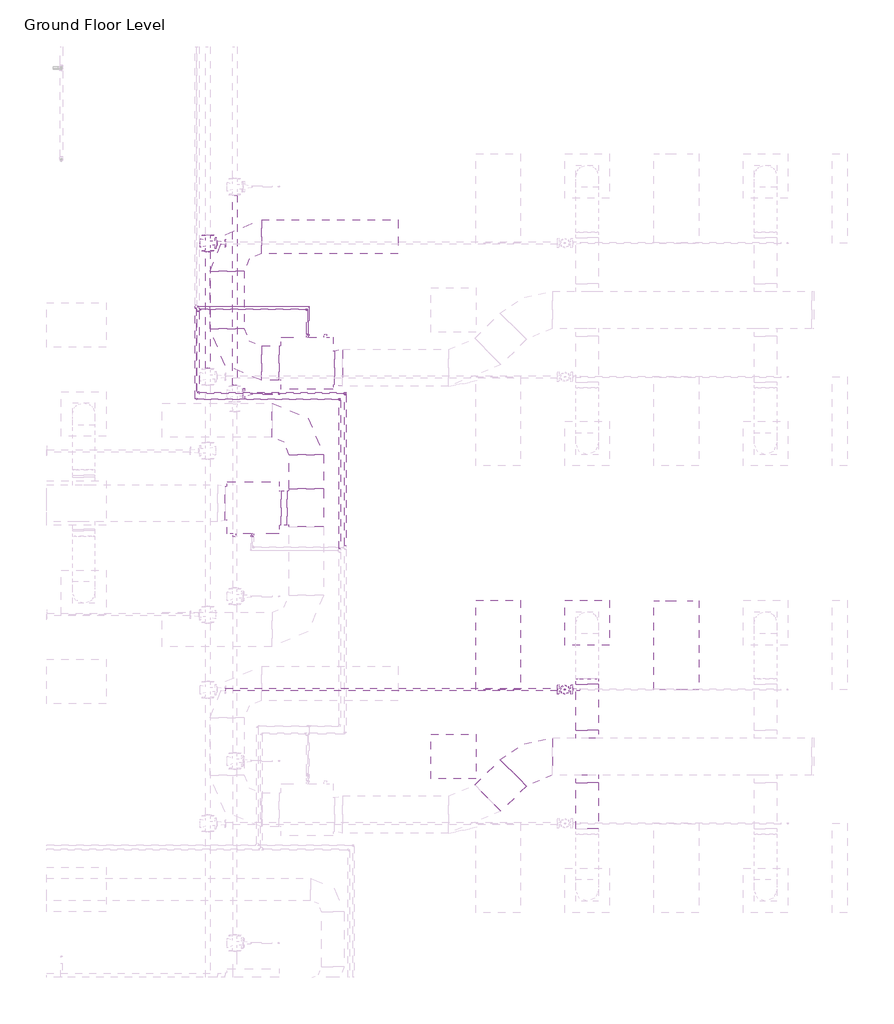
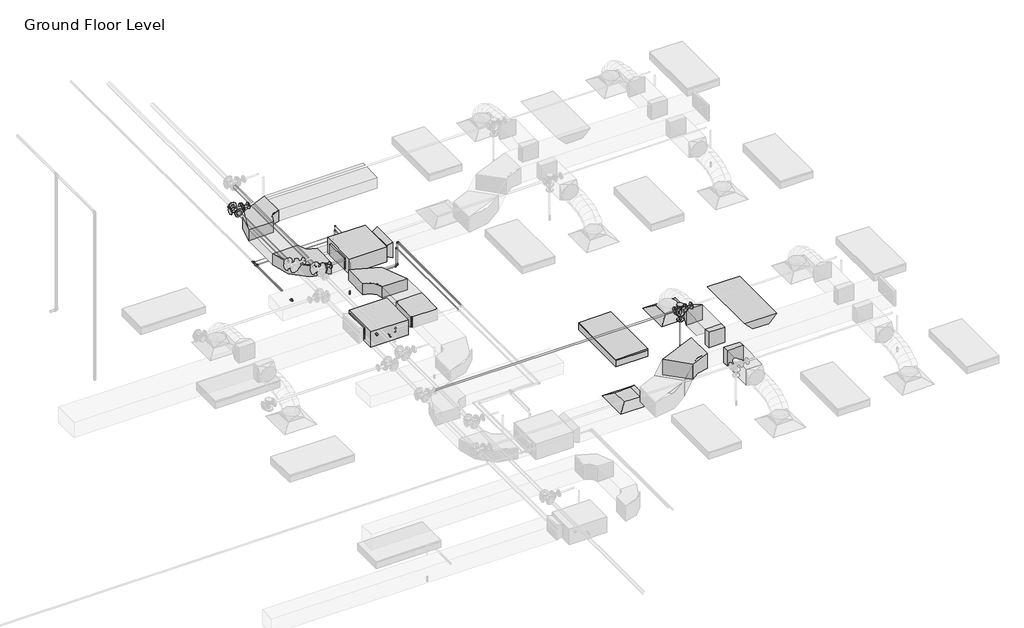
# One storey, part 62 of 73: 20 pipe fittings, 20 pipe segments, 9 duct fittings, 8 duct segments, 2 air terminals, 2 fire suppression terminals, 2 light fixtures, 2 proxies.
"""IFC4 building model written with IfcOpenShell, lengths in millimetres."""

from ifc_helpers import new_model, si_unit, point, frame, frame_2d, origin, place, context, project, spatial, polyline, circle_curve, trimmed, segment, composite_curve, outline, extrude, transform, mapped, element, save
from components import m_return_diffuser_600_x_600_face_300_x_300_connection_ff221211, fcu_daikin_iu_bad131e0, m_rectangular_elbow_radius_1_w_54c96895, m_rectangular_elbow_radius_1_5_w_acc56c25, m_rectangular_takeoff_standard_cb0ccb98, m_rectangular_takeoff_standard_2be5eba1, m_rectangular_tee_standard_fa4de0e8, m_rectangular_transition_angle_45_degree_2b595dfe, m_rectangular_to_round_transition_angle_45_degree_641efff0, m_sprinkler_dry_pendent_hosted_15_mm_dry_pendent_9bda8e11, m_sprinkler_pendent_15_mm_pendent_06fcbd8e, m_emergency_recessed_lighting_fixture_600x1200_277_5b10b25d, m_troffer_light_parabolic_rectangular1_0600x1200mm_4_lamp_86473d4a, m_elbow_generic_standard_a088f956, m_elbow_generic_standard_2a704253, m_elbow_generic_standard_73005802, m_elbow_generic_standard_bb5ffebe, m_reducer_flanged_cs_class_150_standard_ccf252ad, m_reducer_flanged_cs_class_150_standard_9dfe9ec5, m_reducer_flanged_cs_class_150_standard_a7631c35, m_tee_generic_standard_cdc1cff5, m_tee_generic_standard_bbfc025c, m_tee_round_base_flanged_cs_class_150_standard_dd767e04, m_tee_round_base_flanged_cs_class_150_standard_7e5987a1, m_transition_generic_standard_e9aec4dd, m_transition_generic_standard_c2658a33

model = new_model("IFC4")

# Units and contexts
model_context = context("Model", 3, world=origin())
ifc_project = project(units=[si_unit("LENGTHUNIT", "METRE", prefix="MILLI")], contexts=[model_context])

# Site, building, storey
site = spatial("IfcSite", under=ifc_project)
building = spatial("IfcBuilding", under=site)
storey = spatial("IfcBuildingStorey", under=building, Name="Ground Floor Level", Elevation=900.0)

# Air terminals
placement = place(None, origin())
m_return_diffuser_600_x_600_face_300_x_300_connection_shape = m_return_diffuser_600_x_600_face_300_x_300_connection_ff221211(model_context)
element("IfcAirTerminal", 1, ObjectType="M_Return Diffuser : 600 x 600 Face 300 x 300 Connection", at=placement, inside=storey, context=model_context, shape_type="MappedRepresentation", body=[
    mapped(m_return_diffuser_600_x_600_face_300_x_300_connection_shape, transform((8942.7672395, 725.2153534, 3650.0), x_axis=(1.0, 0.0, 0.0), y_axis=(0.0, 1.0, 0.0), z_axis=(0.0, 0.0, 1.0))),
])
element("IfcAirTerminal", 2, ObjectType="M_Supply Diffuser : 600 x 600 Face 300 x 300 Connection", at=placement, inside=storey, context=model_context, shape_type="MappedRepresentation", body=[
    mapped(m_return_diffuser_600_x_600_face_300_x_300_connection_shape, transform((10742.7672395, 2525.2153534, 3650.0), x_axis=(1.0, 0.0, 0.0), y_axis=(0.0, 1.0, 0.0), z_axis=(0.0, 0.0, 1.0))),
])

# Proxies
fcu_daikin_iu_shape = fcu_daikin_iu_bad131e0(model_context)
element("IfcBuildingElementProxy", 3, Name="FCU-DAIKIN IU : 4.5kW, 230V/50Hz/1Ph", ObjectType="FCU-DAIKIN IU : 4.5kW, 230V/50Hz/1Ph", at=placement, inside=storey, context=model_context, shape_type="MappedRepresentation", body=[
    mapped(fcu_daikin_iu_shape, transform((6968.8139492, 6019.6779527, 3934.0932729), x_axis=(0.0, 1.0, 0.0), y_axis=(-1.0, 0.0, 0.0), z_axis=(0.0, 0.0, 1.0))),
])
element("IfcBuildingElementProxy", 4, Name="FCU-DAIKIN IU : 4.5kW, 230V/50Hz/1Ph", ObjectType="FCU-DAIKIN IU : 4.5kW, 230V/50Hz/1Ph", at=placement, inside=storey, context=model_context, shape_type="MappedRepresentation", body=[
    mapped(fcu_daikin_iu_shape, transform((6243.4139492, 4071.5199167, 3934.0875), x_axis=(0.0, -1.0, 0.0), y_axis=(1.0, 0.0, 0.0), z_axis=(0.0, 0.0, 1.0))),
])

# Duct fittings
m_rectangular_elbow_radius_1_w_shape = m_rectangular_elbow_radius_1_w_54c96895(model_context)
element("IfcDuctFitting", 5, ObjectType="M_Rectangular Elbow - Radius : 1 W", at=placement, inside=storey, context=model_context, shape_type="MappedRepresentation", body=[
    mapped(m_rectangular_elbow_radius_1_w_shape, transform((5893.4139492, 6019.6779527, 4075.2932729), x_axis=(0.0, -1.0, 0.0), y_axis=(1.0, 0.0, 0.0), z_axis=(0.0, 0.0, 1.0))),
])
element("IfcDuctFitting", 6, ObjectType="M_Rectangular Elbow - Radius : 1 W", at=placement, inside=storey, context=model_context, shape_type="MappedRepresentation", body=[
    mapped(m_rectangular_elbow_radius_1_w_shape, transform((5893.4139492, 7719.6783949, 4075.2932729), x_axis=(-1.0, 0.0, 0.0), y_axis=(0.0, -1.0, 0.0), z_axis=(0.0, 0.0, 1.0))),
])
element("IfcDuctFitting", 7, ObjectType="M_Rectangular Elbow - Radius : 1 W", at=placement, inside=storey, context=model_context, shape_type="MappedRepresentation", body=[
    mapped(m_rectangular_elbow_radius_1_w_shape, transform((6958.8139492, 5251.5199167, 4075.2875), x_axis=(0.0, 1.0, 0.0), y_axis=(-1.0, 0.0, 0.0), z_axis=(0.0, 0.0, 1.0))),
])
m_rectangular_elbow_radius_1_5_w_shape = m_rectangular_elbow_radius_1_5_w_acc56c25(model_context)
element("IfcDuctFitting", 8, ObjectType="M_Rectangular Elbow - Radius : 1.5 W", at=placement, inside=storey, context=model_context, shape_type="MappedRepresentation", body=[
    mapped(m_rectangular_elbow_radius_1_5_w_shape, transform((9966.7301365, 725.2153534, 4100.0), x_axis=(-1.0, 0.0, 0.0), y_axis=(0.0, -0.9999999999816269, 6.061864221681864e-06), z_axis=(0.0, 6.061864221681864e-06, 0.9999999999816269))),
])
m_rectangular_takeoff_standard_shape = m_rectangular_takeoff_standard_cb0ccb98(model_context)
element("IfcDuctFitting", 9, ObjectType="M_Rectangular Takeoff : Standard", at=placement, inside=storey, context=model_context, shape_type="MappedRepresentation", body=[
    mapped(m_rectangular_takeoff_standard_shape, transform((10742.7672395, 975.2153534, 4100.0), x_axis=(0.0, 1.0, 0.0), y_axis=(1.0, 0.0, 0.0), z_axis=(0.0, 0.0, -1.0))),
])
m_rectangular_takeoff_standard_2_shape = m_rectangular_takeoff_standard_2be5eba1(model_context)
element("IfcDuctFitting", 10, ObjectType="M_Rectangular Takeoff : Standard", at=placement, inside=storey, context=model_context, shape_type="MappedRepresentation", body=[
    mapped(m_rectangular_takeoff_standard_2_shape, transform((10742.7672395, 475.2153534, 4100.0), x_axis=(0.0, -1.0, 0.0), y_axis=(-1.0, 0.0, 0.0), z_axis=(0.0, 0.0, -1.0))),
])
m_rectangular_tee_standard_shape = m_rectangular_tee_standard_fa4de0e8(model_context)
element("IfcDuctFitting", 11, ObjectType="M_Rectangular Tee : Standard", at=placement, inside=storey, context=model_context, shape_type="MappedRepresentation", body=[
    mapped(m_rectangular_tee_standard_shape, transform((6958.8139492, 4071.5199167, 4075.2875), x_axis=(0.0, -1.0, 0.0), y_axis=(1.0, 0.0, 0.0), z_axis=(0.0, 0.0, 1.0))),
])
m_rectangular_transition_angle_45_degree_shape = m_rectangular_transition_angle_45_degree_2b595dfe(model_context)
element("IfcDuctFitting", 12, ObjectType="M_Rectangular Transition - Angle : 45 Degree", at=placement, inside=storey, context=model_context, shape_type="MappedRepresentation", body=[
    mapped(m_rectangular_transition_angle_45_degree_shape, transform((7344.2139492, 5956.1779527, 4100.0057729), x_axis=(1.0, 0.0, 0.0), y_axis=(0.0, 1.0, 0.0), z_axis=(0.0, 0.0, 1.0))),
])
m_rectangular_to_round_transition_angle_45_degree_shape = m_rectangular_to_round_transition_angle_45_degree_641efff0(model_context)
element("IfcDuctFitting", 13, ObjectType="M_Rectangular to Round Transition - Angle : 45 Degree", at=placement, inside=storey, context=model_context, shape_type="MappedRepresentation", body=[
    mapped(m_rectangular_to_round_transition_angle_45_degree_shape, transform((10742.7672395, 1697.8794221, 4100.0), x_axis=(0.0, 1.0, 0.0), y_axis=(-1.0, 0.0, 0.0), z_axis=(0.0, 0.0, 1.0))),
])

# Duct segments
element("IfcDuctSegment", 14, ObjectType="Radius Elbows / Taps", at=placement, inside=storey, context=model_context, shape_type="SweptSolid", body=[
    extrude(outline(polyline([(6593.4139492, 6250.6154527), (6593.4139492, 5788.7404527), (6355.2889492, 5788.7404527), (6355.2889492, 6250.6154527), (6593.4139492, 6250.6154527)])), frame((0.0, 0.0, 3968.1432729), z_axis=(0.0, 0.0, 1.0), x_axis=(1.0, 0.0, 0.0)), (0.0, 0.0, 1.0), 214.3),
])
element("IfcDuctSegment", 15, ObjectType="Radius Elbows / Taps", at=placement, inside=storey, context=model_context, shape_type="SweptSolid", body=[
    extrude(outline(polyline([(6124.3514492, 6481.5529527), (5662.4764492, 6481.5529527), (5662.4764492, 7257.8033949), (6124.3514492, 7257.8033949), (6124.3514492, 6481.5529527)])), frame((0.0, 0.0, 3968.1432729), z_axis=(0.0, 0.0, 1.0), x_axis=(1.0, 0.0, 0.0)), (0.0, 0.0, 1.0), 214.3),
])
element("IfcDuctSegment", 16, ObjectType="Radius Elbows / Taps", at=placement, inside=storey, context=model_context, shape_type="SweptSolid", body=[
    extrude(outline(polyline([(6355.2889492, 7488.7408949), (6355.2889492, 7950.6158949), (8193.4139492, 7950.6158949), (8193.4139492, 7488.7408949), (6355.2889492, 7488.7408949)])), frame((0.0, 0.0, 3968.1432729), z_axis=(0.0, 0.0, 1.0), x_axis=(1.0, 0.0, 0.0)), (0.0, 0.0, 1.0), 214.3),
])
element("IfcDuctSegment", 17, ObjectType="Radius Elbows / Taps", at=placement, inside=storey, context=model_context, shape_type="SweptSolid", body=[
    extrude(outline(polyline([(9584.1393452, -10.9288285), (9230.5859546, 342.6245621), (9570.2835271, 682.3221346), (9923.8369177, 328.768744), (9584.1393452, -10.9288285)])), frame((0.0, 0.0, 3950.0033908), z_axis=(0.0, 0.0, 1.0), x_axis=(1.0, 0.0, 0.0)), (0.0, 0.0, 1.0), 300.0),
])
element("IfcDuctSegment", 18, ObjectType="Radius Elbows / Taps", at=placement, inside=storey, context=model_context, shape_type="SweptSolid", body=[
    extrude(outline(polyline([(6618.8139492, 3840.5824167), (6618.8139492, 4302.4574167), (6702.8764492, 4302.4574167), (6702.8764492, 3840.5824167), (6618.8139492, 3840.5824167)])), frame((0.0, 0.0, 3968.1375), z_axis=(0.0, 0.0, 1.0), x_axis=(1.0, 0.0, 0.0)), (0.0, 0.0, 1.0), 214.3),
])
element("IfcDuctSegment", 19, ObjectType="Radius Elbows / Taps", at=placement, inside=storey, context=model_context, shape_type="SweptSolid", body=[
    extrude(outline(polyline([(7189.7514492, 4327.4574167), (6727.8764492, 4327.4574167), (6727.8764492, 4789.6449167), (7189.7514492, 4789.6449167), (7189.7514492, 4327.4574167)])), frame((0.0, 0.0, 3968.1375), z_axis=(0.0, 0.0, 1.0), x_axis=(1.0, 0.0, 0.0)), (0.0, 0.0, 1.0), 214.3),
])
element("IfcDuctSegment", 20, ObjectType="Radius Elbows / Taps", at=placement, inside=storey, context=model_context, shape_type="SweptSolid", body=[
    extrude(outline(polyline([(10892.7672395, 1076.8153534), (10592.7672395, 1076.8153534), (10592.7672395, 1697.8794221), (10892.7672395, 1697.8794221), (10892.7672395, 1076.8153534)])), frame((0.0, 0.0, 3950.0), z_axis=(0.0, 0.0, 1.0), x_axis=(1.0, 0.0, 0.0)), (0.0, 0.0, 1.0), 300.0),
])
element("IfcDuctSegment", 21, ObjectType="Radius Elbows / Taps", at=placement, inside=storey, context=model_context, shape_type="SweptSolid", body=[
    extrude(outline(polyline([(10592.7672395, 373.6153534), (10892.7672395, 373.6153534), (10892.7672395, -247.4487153), (10592.7672395, -247.4487153), (10592.7672395, 373.6153534)])), frame((0.0, 0.0, 3950.0), z_axis=(0.0, 0.0, 1.0), x_axis=(1.0, 0.0, 0.0)), (0.0, 0.0, 1.0), 300.0),
])

# Fire suppression terminals
m_sprinkler_dry_pendent_hosted_15_mm_dry_pendent_shape = m_sprinkler_dry_pendent_hosted_15_mm_dry_pendent_9bda8e11(model_context)
element("IfcFireSuppressionTerminal", 22, ObjectType="M_Sprinkler - Dry - Pendent - Hosted : 15 mm Dry Pendent", at=placement, inside=storey, context=model_context, shape_type="MappedRepresentation", body=[
    mapped(m_sprinkler_dry_pendent_hosted_15_mm_dry_pendent_shape, transform((10442.7672395, 1625.2153534, 3650.0), x_axis=(1.0, 0.0, 0.0), y_axis=(0.0, -1.0, 0.0), z_axis=(0.0, 0.0, -1.0))),
])
m_sprinkler_pendent_15_mm_pendent_shape = m_sprinkler_pendent_15_mm_pendent_06fcbd8e(model_context)
element("IfcFireSuppressionTerminal", 23, ObjectType="M_Sprinkler - Pendent : 15 mm Pendent", at=placement, inside=storey, context=model_context, shape_type="MappedRepresentation", body=[
    mapped(m_sprinkler_pendent_15_mm_pendent_shape, transform((6592.5481019, 5605.2153637, 3650.0), x_axis=(1.0, 0.0, 0.0), y_axis=(0.0, 1.0, 0.0), z_axis=(0.0, 0.0, 1.0))),
])

# Light fixtures
m_emergency_recessed_lighting_fixture_600x1200_277_shape = m_emergency_recessed_lighting_fixture_600x1200_277_5b10b25d(model_context)
element("IfcLightFixture", 24, ObjectType="M_Emergency Recessed Lighting Fixture : 600x1200 - 277", at=placement, inside=storey, context=model_context, shape_type="MappedRepresentation", body=[
    mapped(m_emergency_recessed_lighting_fixture_600x1200_277_shape, transform((11642.7672395, 1625.2153534, 3650.0), x_axis=(0.0, 1.0, 0.0), y_axis=(-1.0, 0.0, 0.0), z_axis=(0.0, 0.0, 1.0))),
])
m_troffer_light_parabolic_rectangular1_0600x1200mm_4_lamp_shape = m_troffer_light_parabolic_rectangular1_0600x1200mm_4_lamp_86473d4a(model_context)
element("IfcLightFixture", 25, ObjectType="M_Troffer Light - Parabolic Rectangular1 : 0600x1200mm(4 Lamp) - 277V 2", at=placement, inside=storey, context=model_context, shape_type="MappedRepresentation", body=[
    mapped(m_troffer_light_parabolic_rectangular1_0600x1200mm_4_lamp_shape, transform((9483.3013074, 2243.918855, 3650.0), x_axis=(0.0, 1.0, 0.0), y_axis=(-1.0, 0.0, 0.0), z_axis=(0.0, 0.0, 1.0))),
])

# Pipe fittings
m_elbow_generic_standard_shape = m_elbow_generic_standard_a088f956(model_context)
element("IfcPipeFitting", 26, ObjectType="M_Elbow - Generic : Standard", at=placement, inside=storey, context=model_context, shape_type="MappedRepresentation", body=[
    mapped(m_elbow_generic_standard_shape, transform((6968.8139492, 6741.4098545, 4034.0932729), x_axis=(0.0, 1.0, 0.0), y_axis=(0.0, 0.0, -1.0), z_axis=(-1.0, 0.0, 0.0))),
])
element("IfcPipeFitting", 27, ObjectType="M_Elbow - Generic : Standard", at=placement, inside=storey, context=model_context, shape_type="MappedRepresentation", body=[
    mapped(m_elbow_generic_standard_shape, transform((6968.8139492, 6741.4098545, 3851.8370709), x_axis=(0.0, 0.0, -1.0), y_axis=(-1.0, 0.0, 0.0), z_axis=(0.0, 1.0, 0.0))),
])
m_elbow_generic_standard_2_shape = m_elbow_generic_standard_2a704253(model_context)
element("IfcPipeFitting", 28, ObjectType="M_Elbow - Generic : Standard", at=placement, inside=storey, context=model_context, shape_type="MappedRepresentation", body=[
    mapped(m_elbow_generic_standard_2_shape, transform((6993.8139492, 6781.5253374, 4084.8932729), x_axis=(0.0, 1.0, 0.0), y_axis=(0.0, 0.0, -1.0), z_axis=(-1.0, 0.0, 0.0))),
])
element("IfcPipeFitting", 29, ObjectType="M_Elbow - Generic : Standard", at=placement, inside=storey, context=model_context, shape_type="MappedRepresentation", body=[
    mapped(m_elbow_generic_standard_2_shape, transform((6993.8139492, 6781.5253374, 3894.9), x_axis=(0.0, 0.0, -1.0), y_axis=(-1.0, 0.0, 0.0), z_axis=(0.0, 1.0, 0.0))),
])
m_elbow_generic_standard_3_shape = m_elbow_generic_standard_73005802(model_context)
element("IfcPipeFitting", 30, ObjectType="M_Elbow - Generic : Standard", at=placement, inside=storey, context=model_context, shape_type="MappedRepresentation", body=[
    mapped(m_elbow_generic_standard_3_shape, transform((7485.0672395, 5616.0098545, 4300.0), x_axis=(0.0, 1.0, 0.0), y_axis=(0.0, 0.0, -1.0), z_axis=(-1.0, 0.0, 0.0))),
])
element("IfcPipeFitting", 31, ObjectType="M_Elbow - Generic : Standard", at=placement, inside=storey, context=model_context, shape_type="MappedRepresentation", body=[
    mapped(m_elbow_generic_standard_3_shape, transform((7485.0672395, 5616.0098545, 3851.8370709), x_axis=(0.0, 0.0, -1.0), y_axis=(-1.0, 0.0, 0.0), z_axis=(0.0, 1.0, 0.0))),
])
element("IfcPipeFitting", 32, ObjectType="M_Elbow - Generic : Standard", at=placement, inside=storey, context=model_context, shape_type="MappedRepresentation", body=[
    mapped(m_elbow_generic_standard_3_shape, transform((5505.0672395, 5616.0098545, 3851.8370709), x_axis=(0.0, -1.0, 0.0), y_axis=(1.0, 0.0, 0.0), z_axis=(0.0, 0.0, 1.0))),
])
m_elbow_generic_standard_4_shape = m_elbow_generic_standard_bb5ffebe(model_context)
element("IfcPipeFitting", 33, ObjectType="M_Elbow - Generic : Standard", at=placement, inside=storey, context=model_context, shape_type="MappedRepresentation", body=[
    mapped(m_elbow_generic_standard_4_shape, transform((7412.2057053, 5534.0185138, 4265.0), x_axis=(0.0, 1.0, 0.0), y_axis=(0.0, 0.0, -1.0), z_axis=(-1.0, 0.0, 0.0))),
])
element("IfcPipeFitting", 34, ObjectType="M_Elbow - Generic : Standard", at=placement, inside=storey, context=model_context, shape_type="MappedRepresentation", body=[
    mapped(m_elbow_generic_standard_4_shape, transform((7412.2057053, 5534.0185138, 3894.9), x_axis=(0.0, 0.0, -1.0), y_axis=(-1.0, 0.0, 0.0), z_axis=(0.0, 1.0, 0.0))),
])
element("IfcPipeFitting", 35, ObjectType="M_Elbow - Generic : Standard", at=placement, inside=storey, context=model_context, shape_type="MappedRepresentation", body=[
    mapped(m_elbow_generic_standard_4_shape, transform((5472.2057053, 5534.0185138, 3894.9), x_axis=(0.0, -1.0, 0.0), y_axis=(1.0, 0.0, 0.0), z_axis=(0.0, 0.0, 1.0))),
])
m_reducer_flanged_cs_class_150_standard_shape = m_reducer_flanged_cs_class_150_standard_ccf252ad(model_context)
element("IfcPipeFitting", 36, ObjectType="M_Reducer - Flanged - CS - Class 150 : Standard", at=placement, inside=storey, context=model_context, shape_type="MappedRepresentation", body=[
    mapped(m_reducer_flanged_cs_class_150_standard_shape, transform((10543.4758332, 1625.2153534, 4360.0), x_axis=(1.0, 0.0, 0.0), y_axis=(0.0, 0.0, 1.0), z_axis=(0.0, -1.0, 0.0))),
])
element("IfcPipeFitting", 37, ObjectType="M_Reducer - Flanged - CS - Class 150 : Standard", at=placement, inside=storey, context=model_context, shape_type="MappedRepresentation", body=[
    mapped(m_reducer_flanged_cs_class_150_standard_shape, transform((10442.7672395, 1625.2153534, 4259.2914062), x_axis=(0.0, 0.0, -1.0), y_axis=(-1.0, 0.0, 0.0), z_axis=(0.0, 1.0, 0.0))),
])
m_reducer_flanged_cs_class_150_standard_2_shape = m_reducer_flanged_cs_class_150_standard_9dfe9ec5(model_context)
element("IfcPipeFitting", 38, ObjectType="M_Reducer - Flanged - CS - Class 150 : Standard", at=placement, inside=storey, context=model_context, shape_type="MappedRepresentation", body=[
    mapped(m_reducer_flanged_cs_class_150_standard_2_shape, transform((6111.057812, 5605.2153637, 4291.250653), x_axis=(1.0, 0.0, 0.0), y_axis=(0.0, 0.0, -1.0), z_axis=(0.0, 1.0, 0.0))),
])
m_reducer_flanged_cs_class_150_standard_3_shape = m_reducer_flanged_cs_class_150_standard_a7631c35(model_context)
element("IfcPipeFitting", 39, ObjectType="M_Reducer - Flanged - CS - Class 150 : Standard", at=placement, inside=storey, context=model_context, shape_type="MappedRepresentation", body=[
    mapped(m_reducer_flanged_cs_class_150_standard_3_shape, transform((5749.869498, 7635.2153534, 4360.0), x_axis=(1.0, 0.0, 0.0), y_axis=(0.0, 0.0, 1.0), z_axis=(0.0, -1.0, 0.0))),
])
m_tee_generic_standard_shape = m_tee_generic_standard_cdc1cff5(model_context)
element("IfcPipeFitting", 40, ObjectType="M_Tee - Generic : Standard", at=placement, inside=storey, context=model_context, shape_type="MappedRepresentation", body=[
    mapped(m_tee_generic_standard_shape, transform((5472.2057053, 6781.5253374, 3894.9), x_axis=(0.0, 1.0, 0.0), y_axis=(-1.0, 0.0, 0.0), z_axis=(0.0, 0.0, 1.0))),
])
m_tee_generic_standard_2_shape = m_tee_generic_standard_bbfc025c(model_context)
element("IfcPipeFitting", 41, ObjectType="M_Tee - Generic : Standard", at=placement, inside=storey, context=model_context, shape_type="MappedRepresentation", body=[
    mapped(m_tee_generic_standard_2_shape, transform((5505.0672395, 6741.4098545, 3851.8370709), x_axis=(0.0, 1.0, 0.0), y_axis=(-1.0, 0.0, 0.0), z_axis=(0.0, 0.0, 1.0))),
])
m_tee_round_base_flanged_cs_class_150_standard_shape = m_tee_round_base_flanged_cs_class_150_standard_dd767e04(model_context)
element("IfcPipeFitting", 42, ObjectType="M_Tee Round Base - Flanged - CS - Class 150 : Standard", at=placement, inside=storey, context=model_context, shape_type="MappedRepresentation", body=[
    mapped(m_tee_round_base_flanged_cs_class_150_standard_shape, transform((5635.869498, 7635.2153534, 4360.0), x_axis=(0.0, 1.0, 0.0), y_axis=(-1.0, 0.0, 0.0), z_axis=(0.0, 0.0, 1.0))),
])
m_tee_round_base_flanged_cs_class_150_standard_2_shape = m_tee_round_base_flanged_cs_class_150_standard_7e5987a1(model_context)
element("IfcPipeFitting", 43, ObjectType="M_Tee Round Base - Flanged - CS - Class 150 : Standard", at=placement, inside=storey, context=model_context, shape_type="MappedRepresentation", body=[
    mapped(m_tee_round_base_flanged_cs_class_150_standard_2_shape, transform((10442.7672395, 1625.2153534, 4360.0), x_axis=(1.0, 0.0, 0.0), y_axis=(0.0, 0.0, 1.0), z_axis=(0.0, -1.0, 0.0))),
])
m_transition_generic_standard_shape = m_transition_generic_standard_e9aec4dd(model_context)
element("IfcPipeFitting", 44, ObjectType="M_Transition - Generic : Standard", at=placement, inside=storey, context=model_context, shape_type="MappedRepresentation", body=[
    mapped(m_transition_generic_standard_shape, transform((5530.4672395, 6741.4098545, 3851.8370709), x_axis=(1.0, 0.0, 0.0), y_axis=(0.0, 1.0, 0.0), z_axis=(0.0, 0.0, 1.0))),
])
m_transition_generic_standard_2_shape = m_transition_generic_standard_c2658a33(model_context)
element("IfcPipeFitting", 45, ObjectType="M_Transition - Generic : Standard", at=placement, inside=storey, context=model_context, shape_type="MappedRepresentation", body=[
    mapped(m_transition_generic_standard_2_shape, transform((5494.4307053, 6781.5253374, 3894.9), x_axis=(1.0, 0.0, 0.0), y_axis=(0.0, 1.0, 0.0), z_axis=(0.0, 0.0, 1.0))),
])

# Pipe segments
element("IfcPipeSegment", 46, ObjectType="Copper", at=placement, inside=storey, context=model_context, shape_type="SweptSolid", body=[
    extrude(outline(composite_curve([segment(trimmed(circle_curve(frame_2d((3894.9, 5472.2057053)), 8.1), [point((3894.9, 5464.1057053))], [point((3886.8, 5472.2057053))], False, "CARTESIAN"), True, "CONTINUOUS"), segment(trimmed(circle_curve(frame_2d((3894.9, 5472.2057053)), 8.1), [point((3886.8, 5472.2057053))], [point((3894.9, 5480.3057053))], False, "CARTESIAN"), True, "CONTINUOUS"), segment(trimmed(circle_curve(frame_2d((3894.9, 5472.2057053)), 8.1), [point((3894.9, 5480.3057053))], [point((3903.0, 5472.2057053))], False, "CARTESIAN"), True, "CONTINUOUS"), segment(trimmed(circle_curve(frame_2d((3894.9, 5472.2057053)), 8.1), [point((3903.0, 5472.2057053))], [point((3894.9, 5464.1057053))], False, "CARTESIAN"), True, "CONTINUOUS")], self_intersect=False)), frame((0.0, 5549.8935138, 0.0), z_axis=(0.0, 1.0, 0.0), x_axis=(0.0, 0.0, 1.0)), (0.0, 0.0, 1.0), 1209.4068236),
])
element("IfcPipeSegment", 47, ObjectType="Copper", at=placement, inside=storey, context=model_context, shape_type="SweptSolid", body=[
    extrude(outline(composite_curve([segment(trimmed(circle_curve(frame_2d((3851.8370709, 5505.0672395)), 11.5), [point((3851.8370709, 5493.5672395))], [point((3840.3370709, 5505.0672395))], False, "CARTESIAN"), True, "CONTINUOUS"), segment(trimmed(circle_curve(frame_2d((3851.8370709, 5505.0672395)), 11.5), [point((3840.3370709, 5505.0672395))], [point((3851.8370709, 5516.5672395))], False, "CARTESIAN"), True, "CONTINUOUS"), segment(trimmed(circle_curve(frame_2d((3851.8370709, 5505.0672395)), 11.5), [point((3851.8370709, 5516.5672395))], [point((3863.3370709, 5505.0672395))], False, "CARTESIAN"), True, "CONTINUOUS"), segment(trimmed(circle_curve(frame_2d((3851.8370709, 5505.0672395)), 11.5), [point((3863.3370709, 5505.0672395))], [point((3851.8370709, 5493.5672395))], False, "CARTESIAN"), True, "CONTINUOUS")], self_intersect=False)), frame((0.0, 5635.0598545, 0.0), z_axis=(0.0, 1.0, 0.0), x_axis=(0.0, 0.0, 1.0)), (0.0, 0.0, 1.0), 1080.95),
])
element("IfcPipeSegment", 48, ObjectType="Copper", at=placement, inside=storey, context=model_context, shape_type="SweptSolid", body=[
    extrude(outline(composite_curve([segment(trimmed(circle_curve(frame_2d((5616.0098545, 3851.8370709)), 11.5), [point((5627.5098545, 3851.8370709))], [point((5616.0098545, 3840.3370709))], False, "CARTESIAN"), True, "CONTINUOUS"), segment(trimmed(circle_curve(frame_2d((5616.0098545, 3851.8370709)), 11.5), [point((5616.0098545, 3840.3370709))], [point((5604.5098545, 3851.8370709))], False, "CARTESIAN"), True, "CONTINUOUS"), segment(trimmed(circle_curve(frame_2d((5616.0098545, 3851.8370709)), 11.5), [point((5604.5098545, 3851.8370709))], [point((5616.0098545, 3863.3370709))], False, "CARTESIAN"), True, "CONTINUOUS"), segment(trimmed(circle_curve(frame_2d((5616.0098545, 3851.8370709)), 11.5), [point((5616.0098545, 3863.3370709))], [point((5627.5098545, 3851.8370709))], False, "CARTESIAN"), True, "CONTINUOUS")], self_intersect=False)), frame((5524.1172395, 0.0, 0.0), z_axis=(1.0, 0.0, 0.0), x_axis=(0.0, 1.0, 0.0)), (0.0, 0.0, 1.0), 1941.9),
])
element("IfcPipeSegment", 49, ObjectType="Copper", at=placement, inside=storey, context=model_context, shape_type="SweptSolid", body=[
    extrude(outline(composite_curve([segment(trimmed(circle_curve(frame_2d((5534.0185138, 3894.9)), 8.1), [point((5542.1185138, 3894.9))], [point((5534.0185138, 3886.8))], False, "CARTESIAN"), True, "CONTINUOUS"), segment(trimmed(circle_curve(frame_2d((5534.0185138, 3894.9)), 8.1), [point((5534.0185138, 3886.8))], [point((5525.9185138, 3894.9))], False, "CARTESIAN"), True, "CONTINUOUS"), segment(trimmed(circle_curve(frame_2d((5534.0185138, 3894.9)), 8.1), [point((5525.9185138, 3894.9))], [point((5534.0185138, 3903.0))], False, "CARTESIAN"), True, "CONTINUOUS"), segment(trimmed(circle_curve(frame_2d((5534.0185138, 3894.9)), 8.1), [point((5534.0185138, 3903.0))], [point((5542.1185138, 3894.9))], False, "CARTESIAN"), True, "CONTINUOUS")], self_intersect=False)), frame((5488.0807053, 0.0, 0.0), z_axis=(1.0, 0.0, 0.0), x_axis=(0.0, 1.0, 0.0)), (0.0, 0.0, 1.0), 1908.25),
])
element("IfcPipeSegment", 50, ObjectType="Copper", at=placement, inside=storey, context=model_context, shape_type="SweptSolid", body=[
    extrude(outline(composite_curve([segment(trimmed(circle_curve(frame_2d((6781.5253374, 3894.9)), 3.35), [point((6784.8753374, 3894.9))], [point((6781.5253374, 3891.55))], False, "CARTESIAN"), True, "CONTINUOUS"), segment(trimmed(circle_curve(frame_2d((6781.5253374, 3894.9)), 3.35), [point((6781.5253374, 3891.55))], [point((6778.1753374, 3894.9))], False, "CARTESIAN"), True, "CONTINUOUS"), segment(trimmed(circle_curve(frame_2d((6781.5253374, 3894.9)), 3.35), [point((6778.1753374, 3894.9))], [point((6781.5253374, 3898.25))], False, "CARTESIAN"), True, "CONTINUOUS"), segment(trimmed(circle_curve(frame_2d((6781.5253374, 3894.9)), 3.35), [point((6781.5253374, 3898.25))], [point((6784.8753374, 3894.9))], False, "CARTESIAN"), True, "CONTINUOUS")], self_intersect=False)), frame((5499.1932053, 0.0, 0.0), z_axis=(1.0, 0.0, 0.0), x_axis=(0.0, 1.0, 0.0)), (0.0, 0.0, 1.0), 1483.483244),
])
element("IfcPipeSegment", 51, ObjectType="Copper", at=placement, inside=storey, context=model_context, shape_type="SweptSolid", body=[
    extrude(outline(composite_curve([segment(trimmed(circle_curve(frame_2d((6741.4098545, 3851.8370709)), 6.5), [point((6747.9098545, 3851.8370709))], [point((6741.4098545, 3845.3370709))], False, "CARTESIAN"), True, "CONTINUOUS"), segment(trimmed(circle_curve(frame_2d((6741.4098545, 3851.8370709)), 6.5), [point((6741.4098545, 3845.3370709))], [point((6734.9098545, 3851.8370709))], False, "CARTESIAN"), True, "CONTINUOUS"), segment(trimmed(circle_curve(frame_2d((6741.4098545, 3851.8370709)), 6.5), [point((6734.9098545, 3851.8370709))], [point((6741.4098545, 3858.3370709))], False, "CARTESIAN"), True, "CONTINUOUS"), segment(trimmed(circle_curve(frame_2d((6741.4098545, 3851.8370709)), 6.5), [point((6741.4098545, 3858.3370709))], [point((6747.9098545, 3851.8370709))], False, "CARTESIAN"), True, "CONTINUOUS")], self_intersect=False)), frame((5536.8172395, 0.0, 0.0), z_axis=(1.0, 0.0, 0.0), x_axis=(0.0, 1.0, 0.0)), (0.0, 0.0, 1.0), 1417.7092098),
])
element("IfcPipeSegment", 52, ObjectType="Copper", at=placement, inside=storey, context=model_context, shape_type="SweptSolid", body=[
    extrude(outline(composite_curve([segment(trimmed(circle_curve(frame_2d((4034.0932729, 6968.8139492)), 6.5), [point((4034.0932729, 6975.3139492))], [point((4040.5932729, 6968.8139492))], False, "CARTESIAN"), True, "CONTINUOUS"), segment(trimmed(circle_curve(frame_2d((4034.0932729, 6968.8139492)), 6.5), [point((4040.5932729, 6968.8139492))], [point((4034.0932729, 6962.3139492))], False, "CARTESIAN"), True, "CONTINUOUS"), segment(trimmed(circle_curve(frame_2d((4034.0932729, 6968.8139492)), 6.5), [point((4034.0932729, 6962.3139492))], [point((4027.5932729, 6968.8139492))], False, "CARTESIAN"), True, "CONTINUOUS"), segment(trimmed(circle_curve(frame_2d((4034.0932729, 6968.8139492)), 6.5), [point((4027.5932729, 6968.8139492))], [point((4034.0932729, 6975.3139492))], False, "CARTESIAN"), True, "CONTINUOUS")], self_intersect=False)), frame((0.0, 6407.7779526, 0.0), z_axis=(0.0, 1.0, 0.0), x_axis=(0.0, 0.0, 1.0)), (0.0, 0.0, 1.0), 319.3444019),
])
element("IfcPipeSegment", 53, ObjectType="Copper", at=placement, inside=storey, context=model_context, shape_type="SweptSolid", body=[
    extrude(outline(composite_curve([segment(trimmed(circle_curve(frame_2d((4084.8932729, 6993.8139492)), 3.35), [point((4084.8932729, 6997.1639492))], [point((4088.2432729, 6993.8139492))], False, "CARTESIAN"), True, "CONTINUOUS"), segment(trimmed(circle_curve(frame_2d((4084.8932729, 6993.8139492)), 3.35), [point((4088.2432729, 6993.8139492))], [point((4084.8932729, 6990.4639492))], False, "CARTESIAN"), True, "CONTINUOUS"), segment(trimmed(circle_curve(frame_2d((4084.8932729, 6993.8139492)), 3.35), [point((4084.8932729, 6990.4639492))], [point((4081.5432729, 6993.8139492))], False, "CARTESIAN"), True, "CONTINUOUS"), segment(trimmed(circle_curve(frame_2d((4084.8932729, 6993.8139492)), 3.35), [point((4081.5432729, 6993.8139492))], [point((4084.8932729, 6997.1639492))], False, "CARTESIAN"), True, "CONTINUOUS")], self_intersect=False)), frame((0.0, 6407.7779526, 0.0), z_axis=(0.0, 1.0, 0.0), x_axis=(0.0, 0.0, 1.0)), (0.0, 0.0, 1.0), 362.6098848),
])
element("IfcPipeSegment", 54, ObjectType="Copper", at=placement, inside=storey, context=model_context, shape_type="SweptSolid", body=[
    extrude(outline(composite_curve([segment(trimmed(circle_curve(frame_2d((4265.0, 7412.2057053)), 8.1), [point((4265.0, 7404.1057053))], [point((4256.9, 7412.2057053))], False, "CARTESIAN"), True, "CONTINUOUS"), segment(trimmed(circle_curve(frame_2d((4265.0, 7412.2057053)), 8.1), [point((4256.9, 7412.2057053))], [point((4265.0, 7420.3057053))], False, "CARTESIAN"), True, "CONTINUOUS"), segment(trimmed(circle_curve(frame_2d((4265.0, 7412.2057053)), 8.1), [point((4265.0, 7420.3057053))], [point((4273.1, 7412.2057053))], False, "CARTESIAN"), True, "CONTINUOUS"), segment(trimmed(circle_curve(frame_2d((4265.0, 7412.2057053)), 8.1), [point((4273.1, 7412.2057053))], [point((4265.0, 7404.1057053))], False, "CARTESIAN"), True, "CONTINUOUS")], self_intersect=False)), frame((0.0, 3521.8280827, 0.0), z_axis=(0.0, 1.0, 0.0), x_axis=(0.0, 0.0, 1.0)), (0.0, 0.0, 1.0), 1996.3154311),
])
element("IfcPipeSegment", 55, ObjectType="Copper", at=placement, inside=storey, context=model_context, shape_type="SweptSolid", body=[
    extrude(outline(composite_curve([segment(trimmed(circle_curve(frame_2d((4300.0, 7485.0672395)), 11.5), [point((4300.0, 7473.5672395))], [point((4288.5, 7485.0672395))], False, "CARTESIAN"), True, "CONTINUOUS"), segment(trimmed(circle_curve(frame_2d((4300.0, 7485.0672395)), 11.5), [point((4288.5, 7485.0672395))], [point((4300.0, 7496.5672395))], False, "CARTESIAN"), True, "CONTINUOUS"), segment(trimmed(circle_curve(frame_2d((4300.0, 7485.0672395)), 11.5), [point((4300.0, 7496.5672395))], [point((4311.5, 7485.0672395))], False, "CARTESIAN"), True, "CONTINUOUS"), segment(trimmed(circle_curve(frame_2d((4300.0, 7485.0672395)), 11.5), [point((4311.5, 7485.0672395))], [point((4300.0, 7473.5672395))], False, "CARTESIAN"), True, "CONTINUOUS")], self_intersect=False)), frame((0.0, 3564.8875998, 0.0), z_axis=(0.0, 1.0, 0.0), x_axis=(0.0, 0.0, 1.0)), (0.0, 0.0, 1.0), 2032.0722547),
])
element("IfcPipeSegment", 56, ObjectType="Copper", at=placement, inside=storey, context=model_context, shape_type="SweptSolid", body=[
    extrude(outline(composite_curve([segment(trimmed(circle_curve(frame_2d((6968.8139492, 6741.4098545)), 6.5), [point((6975.3139492, 6741.4098545))], [point((6968.8139492, 6734.9098545))], False, "CARTESIAN"), True, "CONTINUOUS"), segment(trimmed(circle_curve(frame_2d((6968.8139492, 6741.4098545)), 6.5), [point((6968.8139492, 6734.9098545))], [point((6962.3139492, 6741.4098545))], False, "CARTESIAN"), True, "CONTINUOUS"), segment(trimmed(circle_curve(frame_2d((6968.8139492, 6741.4098545)), 6.5), [point((6962.3139492, 6741.4098545))], [point((6968.8139492, 6747.9098545))], False, "CARTESIAN"), True, "CONTINUOUS"), segment(trimmed(circle_curve(frame_2d((6968.8139492, 6741.4098545)), 6.5), [point((6968.8139492, 6747.9098545))], [point((6975.3139492, 6741.4098545))], False, "CARTESIAN"), True, "CONTINUOUS")], self_intersect=False)), frame((0.0, 0.0, 3866.1245709), z_axis=(0.0, 0.0, 1.0), x_axis=(1.0, 0.0, 0.0)), (0.0, 0.0, 1.0), 153.6812021),
])
element("IfcPipeSegment", 57, ObjectType="Copper", at=placement, inside=storey, context=model_context, shape_type="SweptSolid", body=[
    extrude(outline(composite_curve([segment(trimmed(circle_curve(frame_2d((6993.8139492, 6781.5253374)), 3.35), [point((6997.1639492, 6781.5253374))], [point((6993.8139492, 6778.1753374))], False, "CARTESIAN"), True, "CONTINUOUS"), segment(trimmed(circle_curve(frame_2d((6993.8139492, 6781.5253374)), 3.35), [point((6993.8139492, 6778.1753374))], [point((6990.4639492, 6781.5253374))], False, "CARTESIAN"), True, "CONTINUOUS"), segment(trimmed(circle_curve(frame_2d((6993.8139492, 6781.5253374)), 3.35), [point((6990.4639492, 6781.5253374))], [point((6993.8139492, 6784.8753374))], False, "CARTESIAN"), True, "CONTINUOUS"), segment(trimmed(circle_curve(frame_2d((6993.8139492, 6781.5253374)), 3.35), [point((6993.8139492, 6784.8753374))], [point((6997.1639492, 6781.5253374))], False, "CARTESIAN"), True, "CONTINUOUS")], self_intersect=False)), frame((0.0, 0.0, 3906.0375), z_axis=(0.0, 0.0, 1.0), x_axis=(1.0, 0.0, 0.0)), (0.0, 0.0, 1.0), 167.7182729),
])
element("IfcPipeSegment", 58, ObjectType="Copper", at=placement, inside=storey, context=model_context, shape_type="SweptSolid", body=[
    extrude(outline(composite_curve([segment(trimmed(circle_curve(frame_2d((7412.2057053, 5534.0185138)), 8.1), [point((7420.3057053, 5534.0185138))], [point((7412.2057053, 5525.9185138))], False, "CARTESIAN"), True, "CONTINUOUS"), segment(trimmed(circle_curve(frame_2d((7412.2057053, 5534.0185138)), 8.1), [point((7412.2057053, 5525.9185138))], [point((7404.1057053, 5534.0185138))], False, "CARTESIAN"), True, "CONTINUOUS"), segment(trimmed(circle_curve(frame_2d((7412.2057053, 5534.0185138)), 8.1), [point((7404.1057053, 5534.0185138))], [point((7412.2057053, 5542.1185138))], False, "CARTESIAN"), True, "CONTINUOUS"), segment(trimmed(circle_curve(frame_2d((7412.2057053, 5534.0185138)), 8.1), [point((7412.2057053, 5542.1185138))], [point((7420.3057053, 5534.0185138))], False, "CARTESIAN"), True, "CONTINUOUS")], self_intersect=False)), frame((0.0, 0.0, 3910.775), z_axis=(0.0, 0.0, 1.0), x_axis=(1.0, 0.0, 0.0)), (0.0, 0.0, 1.0), 338.35),
])
element("IfcPipeSegment", 59, ObjectType="Copper", at=placement, inside=storey, context=model_context, shape_type="SweptSolid", body=[
    extrude(outline(composite_curve([segment(trimmed(circle_curve(frame_2d((7485.0672395, 5616.0098545)), 11.5), [point((7496.5672395, 5616.0098545))], [point((7485.0672395, 5604.5098545))], False, "CARTESIAN"), True, "CONTINUOUS"), segment(trimmed(circle_curve(frame_2d((7485.0672395, 5616.0098545)), 11.5), [point((7485.0672395, 5604.5098545))], [point((7473.5672395, 5616.0098545))], False, "CARTESIAN"), True, "CONTINUOUS"), segment(trimmed(circle_curve(frame_2d((7485.0672395, 5616.0098545)), 11.5), [point((7473.5672395, 5616.0098545))], [point((7485.0672395, 5627.5098545))], False, "CARTESIAN"), True, "CONTINUOUS"), segment(trimmed(circle_curve(frame_2d((7485.0672395, 5616.0098545)), 11.5), [point((7485.0672395, 5627.5098545))], [point((7496.5672395, 5616.0098545))], False, "CARTESIAN"), True, "CONTINUOUS")], self_intersect=False)), frame((0.0, 0.0, 3870.8870709), z_axis=(0.0, 0.0, 1.0), x_axis=(1.0, 0.0, 0.0)), (0.0, 0.0, 1.0), 410.0629291),
])
element("IfcPipeSegment", 60, ObjectType="Steel flanged", at=placement, inside=storey, context=model_context, shape_type="SweptSolid", body=[
    extrude(outline(composite_curve([segment(trimmed(circle_curve(frame_2d((6592.5481019, 5605.2153637)), 10.668), [point((6581.8801019, 5605.2153637))], [point((6592.5481019, 5615.8833637))], False, "CARTESIAN"), True, "CONTINUOUS"), segment(trimmed(circle_curve(frame_2d((6592.5481019, 5605.2153637)), 10.668), [point((6592.5481019, 5615.8833637))], [point((6603.2161019, 5605.2153637))], False, "CARTESIAN"), True, "CONTINUOUS"), segment(trimmed(circle_curve(frame_2d((6592.5481019, 5605.2153637)), 10.668), [point((6603.2161019, 5605.2153637))], [point((6592.5481019, 5594.5473637))], False, "CARTESIAN"), True, "CONTINUOUS"), segment(trimmed(circle_curve(frame_2d((6592.5481019, 5605.2153637)), 10.668), [point((6592.5481019, 5594.5473637))], [point((6581.8801019, 5605.2153637))], False, "CARTESIAN"), True, "CONTINUOUS")], self_intersect=False)), frame((0.0, 0.0, 3650.0), z_axis=(0.0, 0.0, 1.0), x_axis=(1.0, 0.0, 0.0)), (0.0, 0.0, 1.0), 548.2420592),
])
element("IfcPipeSegment", 61, ObjectType="Steel flanged", at=placement, inside=storey, context=model_context, shape_type="SweptSolid", body=[
    extrude(outline(composite_curve([segment(trimmed(circle_curve(frame_2d((5605.2153637, 4291.250653)), 10.668), [point((5615.8833637, 4291.250653))], [point((5605.2153637, 4280.582653))], False, "CARTESIAN"), True, "CONTINUOUS"), segment(trimmed(circle_curve(frame_2d((5605.2153637, 4291.250653)), 10.668), [point((5605.2153637, 4280.582653))], [point((5594.5473637, 4291.250653))], False, "CARTESIAN"), True, "CONTINUOUS"), segment(trimmed(circle_curve(frame_2d((5605.2153637, 4291.250653)), 10.668), [point((5594.5473637, 4291.250653))], [point((5605.2153637, 4301.918653))], False, "CARTESIAN"), True, "CONTINUOUS"), segment(trimmed(circle_curve(frame_2d((5605.2153637, 4291.250653)), 10.668), [point((5605.2153637, 4301.918653))], [point((5615.8833637, 4291.250653))], False, "CARTESIAN"), True, "CONTINUOUS")], self_intersect=False)), frame((6238.057812, 0.0, 0.0), z_axis=(1.0, 0.0, 0.0), x_axis=(0.0, 1.0, 0.0)), (0.0, 0.0, 1.0), 261.4816962),
])
element("IfcPipeSegment", 62, ObjectType="Steel flanged", at=placement, inside=storey, context=model_context, shape_type="SweptSolid", body=[
    extrude(outline(composite_curve([segment(trimmed(circle_curve(frame_2d((0.0, -30.1625)), 30.1625), [point((0.0, 0.0))], [point((30.1625, -30.1625))], False, "CARTESIAN"), True, "CONTINUOUS"), segment(trimmed(circle_curve(frame_2d((0.0, -30.1625)), 30.1625), [point((30.1625, -30.1625))], [point((0.0, -60.325))], False, "CARTESIAN"), True, "CONTINUOUS"), segment(trimmed(circle_curve(frame_2d((0.0, -30.1625)), 30.1625), [point((0.0, -60.325))], [point((-30.1625, -30.1625))], False, "CARTESIAN"), True, "CONTINUOUS"), segment(trimmed(circle_curve(frame_2d((0.0, -30.1625)), 30.1625), [point((-30.1625, -30.1625))], [point((0.0, 0.0))], False, "CARTESIAN"), True, "CONTINUOUS")], self_intersect=False)), frame((5966.895312, 5719.2153637, 4291.0695218), z_axis=(0.0, 0.9999999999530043, 9.694924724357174e-06), x_axis=(0.0, 9.694924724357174e-06, -0.9999999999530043)), (0.0, 0.0, 1.0), 2560.342547),
])
element("IfcPipeSegment", 63, ObjectType="Steel flanged", at=placement, inside=storey, context=model_context, shape_type="SweptSolid", body=[
    extrude(outline(composite_curve([segment(trimmed(circle_curve(frame_2d((4360.0, 5635.869498)), 30.1625), [point((4360.0, 5605.706998))], [point((4329.8375, 5635.869498))], False, "CARTESIAN"), True, "CONTINUOUS"), segment(trimmed(circle_curve(frame_2d((4360.0, 5635.869498)), 30.1625), [point((4329.8375, 5635.869498))], [point((4360.0, 5666.031998))], False, "CARTESIAN"), True, "CONTINUOUS"), segment(trimmed(circle_curve(frame_2d((4360.0, 5635.869498)), 30.1625), [point((4360.0, 5666.031998))], [point((4390.1625, 5635.869498))], False, "CARTESIAN"), True, "CONTINUOUS"), segment(trimmed(circle_curve(frame_2d((4360.0, 5635.869498)), 30.1625), [point((4390.1625, 5635.869498))], [point((4360.0, 5605.706998))], False, "CARTESIAN"), True, "CONTINUOUS")], self_intersect=False)), frame((0.0, 5949.2153534, 0.0), z_axis=(0.0, 1.0, 0.0), x_axis=(0.0, 0.0, 1.0)), (0.0, 0.0, 1.0), 1572.0),
])
element("IfcPipeSegment", 64, ObjectType="Steel flanged", at=placement, inside=storey, context=model_context, shape_type="SweptSolid", body=[
    extrude(outline(composite_curve([segment(trimmed(circle_curve(frame_2d((10442.7672395, 1625.2153534)), 10.668), [point((10432.0992395, 1625.2153534))], [point((10442.7672395, 1635.8833534))], False, "CARTESIAN"), True, "CONTINUOUS"), segment(trimmed(circle_curve(frame_2d((10442.7672395, 1625.2153534)), 10.668), [point((10442.7672395, 1635.8833534))], [point((10453.4352395, 1625.2153534))], False, "CARTESIAN"), True, "CONTINUOUS"), segment(trimmed(circle_curve(frame_2d((10442.7672395, 1625.2153534)), 10.668), [point((10453.4352395, 1625.2153534))], [point((10442.7672395, 1614.5473534))], False, "CARTESIAN"), True, "CONTINUOUS"), segment(trimmed(circle_curve(frame_2d((10442.7672395, 1625.2153534)), 10.668), [point((10442.7672395, 1614.5473534))], [point((10432.0992395, 1625.2153534))], False, "CARTESIAN"), True, "CONTINUOUS")], self_intersect=False)), frame((0.0, 0.0, 3650.0), z_axis=(0.0, 0.0, 1.0), x_axis=(1.0, 0.0, 0.0)), (0.0, 0.0, 1.0), 495.2914062),
])
element("IfcPipeSegment", 65, ObjectType="Steel flanged", at=placement, inside=storey, context=model_context, shape_type="SweptSolid", body=[
    extrude(outline(composite_curve([segment(trimmed(circle_curve(frame_2d((1625.2153534, 4360.0)), 16.7005), [point((1641.9158534, 4360.0))], [point((1625.2153534, 4343.2995))], False, "CARTESIAN"), True, "CONTINUOUS"), segment(trimmed(circle_curve(frame_2d((1625.2153534, 4360.0)), 16.7005), [point((1625.2153534, 4343.2995))], [point((1608.5148534, 4360.0))], False, "CARTESIAN"), True, "CONTINUOUS"), segment(trimmed(circle_curve(frame_2d((1625.2153534, 4360.0)), 16.7005), [point((1608.5148534, 4360.0))], [point((1625.2153534, 4376.7005))], False, "CARTESIAN"), True, "CONTINUOUS"), segment(trimmed(circle_curve(frame_2d((1625.2153534, 4360.0)), 16.7005), [point((1625.2153534, 4376.7005))], [point((1641.9158534, 4360.0))], False, "CARTESIAN"), True, "CONTINUOUS")], self_intersect=False)), frame((5876.869498, 0.0, 0.0), z_axis=(1.0, 0.0, 0.0), x_axis=(0.0, 1.0, 0.0)), (0.0, 0.0, 1.0), 4465.1891477),
])

save(model, "model.ifc")
